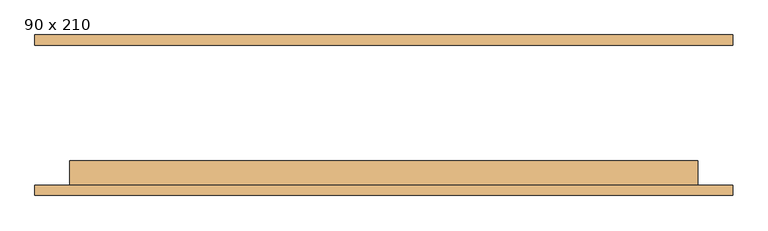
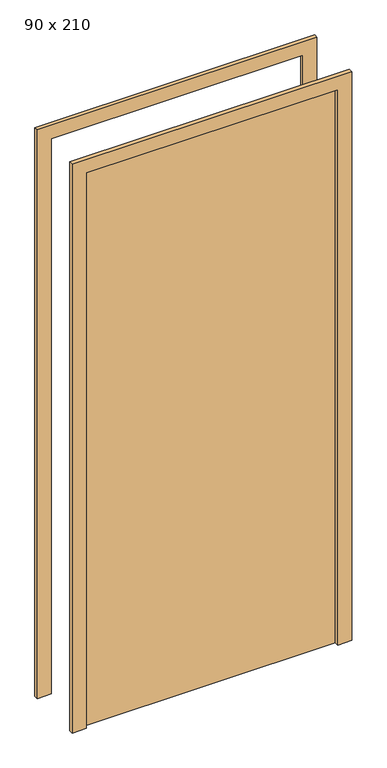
"""IFC4 building model written with IfcOpenShell, lengths in millimetres: door geometry, M_Descarga simples : 90 x 210."""

import ifcopenshell
import ifcopenshell.guid

model = None  # the IFC model being written
_history = None  # IfcOwnerHistory: only IFC2X3 demands one
_inside = {}  # id of a spatial element -> (the spatial element, [elements in it])
_under = {}  # id of a project, library or spatial element -> (it, [spatial elements below it])
_declared = {}  # id of a project -> (the project, [libraries it declares])
_typed = {}  # id of a type object -> (the type object, [elements of that type])
_made_of = {}  # id of a material, layer set ... -> (it, [elements and type objects made of it])


def new_model(schema):
    """Start an empty IFC model of exactly this schema.

    Asked for "IFC4X3", IfcOpenShell would pick the latest addendum, in which some entities
    have other attributes; the version numbers below select the first issue.
    IFC2X3 requires an IfcOwnerHistory on every rooted entity: one is made here for all.
    """
    global model, _history
    if schema == "IFC4X3":
        model = ifcopenshell.file(schema_version=(4, 3, 0, 0))
    else:
        model = ifcopenshell.file(schema=schema)
    _inside.clear()
    _under.clear()
    _declared.clear()
    _typed.clear()
    _made_of.clear()
    _history = None
    if model.schema == "IFC2X3":
        org = make("IfcOrganization", Name="unknown")
        user = make(
            "IfcPersonAndOrganization",
            ThePerson=make("IfcPerson", FamilyName="unknown"),
            TheOrganization=org,
        )
        app = make(
            "IfcApplication",
            ApplicationDeveloper=org,
            Version="unknown",
            ApplicationFullName="unknown",
            ApplicationIdentifier="unknown",
        )
        _history = make(
            "IfcOwnerHistory",
            OwningUser=user,
            OwningApplication=app,
            ChangeAction="ADDED",
            CreationDate=0,
        )
    return model


def make(cls, **values):
    """One entity of the class cls with the attributes given. An attribute that is None is left unset."""
    return model.create_entity(
        cls, **{name: value for name, value in values.items() if value is not None}
    )


def rooted(cls, **values):
    """An entity with a GlobalId (a new one), such as an element, a storey or a relation."""
    return make(cls, GlobalId=ifcopenshell.guid.new(), OwnerHistory=_history, **values)


def si_unit(unit_type, name, prefix=None):
    """IfcSIUnit, for example si_unit("LENGTHUNIT", "METRE", prefix="MILLI")."""
    return make("IfcSIUnit", UnitType=unit_type, Prefix=prefix, Name=name)


def assignment(units):
    """IfcUnitAssignment: the units of a project."""
    return None if units is None else make("IfcUnitAssignment", Units=units)


def point(xyz):
    """IfcCartesianPoint."""
    return None if xyz is None else make("IfcCartesianPoint", Coordinates=xyz)


def direction(xyz):
    """IfcDirection."""
    return None if xyz is None else make("IfcDirection", DirectionRatios=xyz)


def frame(location, z_axis=None, x_axis=None):
    """IfcAxis2Placement3D, a coordinate frame: its origin and axes. An axis left out is left unset."""
    return make(
        "IfcAxis2Placement3D",
        Location=point(location),
        Axis=direction(z_axis),
        RefDirection=direction(x_axis),
    )


def origin():
    """The frame at (0, 0, 0) with its axes left unset."""
    return frame((0.0, 0.0, 0.0))


def origin_with_axes():
    """The frame at (0, 0, 0) with the z axis (0, 0, 1) and the x axis (1, 0, 0) written out."""
    return frame((0.0, 0.0, 0.0), z_axis=(0.0, 0.0, 1.0), x_axis=(1.0, 0.0, 0.0))


def place(relative_to, where):
    """IfcLocalPlacement: puts the frame where relative to a parent placement (None: the world)."""
    return make(
        "IfcLocalPlacement", PlacementRelTo=relative_to, RelativePlacement=where
    )


def context(
    kind, dimensions, precision=None, world=None, true_north=None, identifier=None
):
    """IfcGeometricRepresentationContext, for example the 3D "Model" context."""
    return make(
        "IfcGeometricRepresentationContext",
        ContextIdentifier=identifier,
        ContextType=kind,
        CoordinateSpaceDimension=dimensions,
        Precision=precision,
        WorldCoordinateSystem=world,
        TrueNorth=true_north,
    )


def project(units=None, contexts=None):
    """IfcProject with its units and contexts."""
    return rooted(
        "IfcProject",
        Name="project",
        RepresentationContexts=contexts,
        UnitsInContext=assignment(units),
    )


def spatial(cls, under=None, at=None, **own):
    """A site, building, storey or space (cls), placed at a placement, below another one or the project."""
    s = rooted(cls, ObjectPlacement=at, **own)
    if under is not None:
        _under.setdefault(under.id(), (under, []))[1].append(s)
    return s


def polyline(points):
    """IfcPolyline through the points."""
    return make("IfcPolyline", Points=[point(p) for p in points])


def outline(outer, holes=None, kind="AREA"):
    """IfcArbitraryClosedProfileDef: a profile drawn as a closed curve; with holes, ...WithVoids."""
    if holes is None:
        return make("IfcArbitraryClosedProfileDef", ProfileType=kind, OuterCurve=outer)
    return make(
        "IfcArbitraryProfileDefWithVoids",
        ProfileType=kind,
        OuterCurve=outer,
        InnerCurves=holes,
    )


def extrude(swept, where, along, depth):
    """IfcExtrudedAreaSolid: the profile swept, set in the frame where, extruded along a direction by depth."""
    return make(
        "IfcExtrudedAreaSolid",
        SweptArea=swept,
        Position=where,
        ExtrudedDirection=direction(along),
        Depth=depth,
    )


def shape(context_of_items, identifier, shape_type, items):
    """IfcShapeRepresentation: the items that make up one representation, for example the "Body"."""
    return make(
        "IfcShapeRepresentation",
        ContextOfItems=context_of_items,
        RepresentationIdentifier=identifier,
        RepresentationType=shape_type,
        Items=items,
    )


def source(mapping_origin, context_of_items, identifier, shape_type, items):
    """IfcRepresentationMap: a shape defined once, which mapped items show again and again."""
    return make(
        "IfcRepresentationMap",
        MappingOrigin=mapping_origin,
        MappedRepresentation=shape(context_of_items, identifier, shape_type, items),
    )


def transform(
    local_origin,
    x_axis=None,
    y_axis=None,
    z_axis=None,
    scale=None,
    scale2=None,
    scale3=None,
    uniform=True,
):
    """IfcCartesianTransformationOperator3D, or its non-uniform kind. x_axis, y_axis, z_axis: its Axis1, 2, 3."""
    if uniform:
        return make(
            "IfcCartesianTransformationOperator3D",
            Axis1=direction(x_axis),
            Axis2=direction(y_axis),
            LocalOrigin=point(local_origin),
            Scale=scale,
            Axis3=direction(z_axis),
        )
    return make(
        "IfcCartesianTransformationOperator3DnonUniform",
        Axis1=direction(x_axis),
        Axis2=direction(y_axis),
        LocalOrigin=point(local_origin),
        Scale=scale,
        Axis3=direction(z_axis),
        Scale2=scale2,
        Scale3=scale3,
    )


def mapped(mapping_source, mapping_target):
    """IfcMappedItem: shows the shape of a source again, moved by a transform."""
    return make(
        "IfcMappedItem", MappingSource=mapping_source, MappingTarget=mapping_target
    )


def made_of(thing, what):
    """Note that an element or type object is made of a material, layer set ...; save() writes the relation."""
    if what is not None:
        _made_of.setdefault(what.id(), (what, []))[1].append(thing)
    return thing


def element(
    cls,
    number,
    at=None,
    inside=None,
    cuts=None,
    type_object=None,
    material=None,
    context=None,
    identifier="Body",
    shape_type=None,
    held_by="IfcProductDefinitionShape",
    body=None,
    shapes=None,
    **own,
):
    """One element of the class cls, such as IfcWall. Its Tag is "e" and its number.

    at: its placement. inside: the storey or other place that contains it. cuts: it is an
    opening in that element (IfcRelVoidsElement). A single representation is given by context,
    identifier, shape_type and body (its items); several are given by shapes. held_by: the class
    of the entity that holds the representations. save() writes the other relations.
    """
    e = rooted(cls, Tag="e%d" % number, ObjectPlacement=at, **own)
    if body is not None:
        shapes = [shape(context, identifier, shape_type, body)]
    if shapes is not None:
        e.Representation = make(held_by, Representations=shapes)
    if inside is not None:
        _inside.setdefault(inside.id(), (inside, []))[1].append(e)
    if cuts is not None:
        rooted(
            "IfcRelVoidsElement", RelatingBuildingElement=cuts, RelatedOpeningElement=e
        )
    if type_object is not None:
        _typed.setdefault(type_object.id(), (type_object, []))[1].append(e)
    return made_of(e, material)


def aggregate(whole, parts):
    """IfcRelAggregates: a whole, such as a stair, and the parts it consists of."""
    return rooted("IfcRelAggregates", RelatingObject=whole, RelatedObjects=parts)


def save(model, path):
    """Write the relations noted so far, then the file.

    IfcRelAggregates (storeys below a building ...), IfcRelContainedInSpatialStructure (elements
    in a storey), IfcRelDefinesByType, IfcRelAssociatesMaterial and IfcRelDeclares: one each for
    every whole, place, type object, material and project.
    """
    for whole, parts in _under.values():
        aggregate(whole, parts)
    for where, things in _inside.values():
        rooted(
            "IfcRelContainedInSpatialStructure",
            RelatedElements=things,
            RelatingStructure=where,
        )
    for kind, things in _typed.values():
        rooted("IfcRelDefinesByType", RelatedObjects=things, RelatingType=kind)
    for what, things in _made_of.values():
        rooted("IfcRelAssociatesMaterial", RelatedObjects=things, RelatingMaterial=what)
    for by, libraries in _declared.values():
        rooted("IfcRelDeclares", RelatingContext=by, RelatedDefinitions=libraries)
    model.write(path)


def door_90_x_210_fbafd55c(model_context):
    return source(origin(), model_context, "Body", "SweptSolid", [
        extrude(outline(polyline([(2150.0, -500.0), (0.0, -500.0), (0.0, -450.0), (2100.0, -450.0), (2100.0, 450.0), (0.0, 450.0), (0.0, 500.0), (2150.0, 500.0), (2150.0, -500.0)])), frame((0.0, -115.0, 0.0), z_axis=(0.0, 1.0, 0.0), x_axis=(0.0, 0.0, 1.0)), (0.0, 0.0, 1.0), 15.0),
        extrude(outline(polyline([(2150.0, 500.0), (2150.0, -500.0), (0.0, -500.0), (0.0, -450.0), (2100.0, -450.0), (2100.0, 450.0), (0.0, 450.0), (0.0, 500.0), (2150.0, 500.0)])), frame((0.0, 100.0, 0.0), z_axis=(0.0, 1.0, 0.0), x_axis=(0.0, 0.0, 1.0)), (0.0, 0.0, 1.0), 15.0),
        extrude(outline(polyline([(450.0, -65.0), (450.0, -100.0), (-450.0, -100.0), (-450.0, -65.0), (450.0, -65.0)])), origin_with_axes(), (0.0, 0.0, 1.0), 2100.0),
    ])


if __name__ == "__main__":
    model = new_model("IFC4")
    model_context = context("Model", 3, world=origin())
    ifc_project = project(units=[si_unit("LENGTHUNIT", "METRE", prefix="MILLI")], contexts=[model_context])
    site = spatial("IfcSite", under=ifc_project)
    building = spatial("IfcBuilding", under=site)
    placement = place(None, origin())
    door_90_x_210_shape = door_90_x_210_fbafd55c(model_context)
    element("IfcDoor", 1, ObjectType="M_Descarga simples : 90 x 210", at=placement, inside=building, context=model_context, shape_type="MappedRepresentation", body=[
        mapped(door_90_x_210_shape, transform((0.0, 0.0, 0.0), x_axis=(1.0, 0.0, 0.0), y_axis=(0.0, 1.0, 0.0), z_axis=(0.0, 0.0, 1.0))),
    ])
    save(model, "model.ifc")
